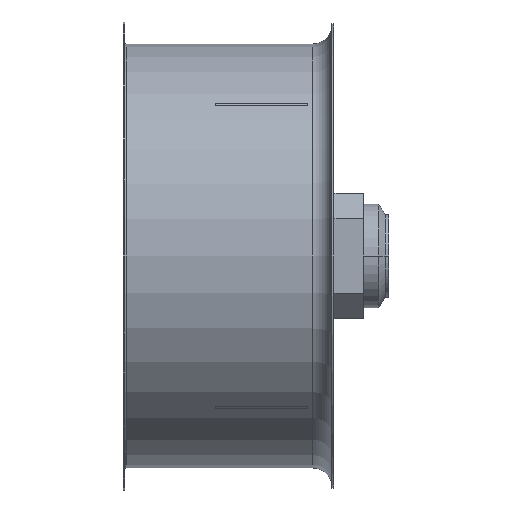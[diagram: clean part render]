
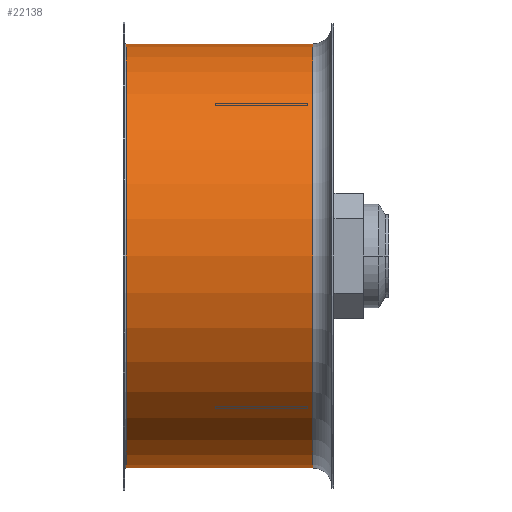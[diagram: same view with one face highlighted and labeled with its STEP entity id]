
A CAD part, front view. The second image highlights one B-rep face of the part: STEP entity #22138.
In plain terms, the highlighted cylindrical face has radius 403 mm (diameter 806 mm), a partial arc.
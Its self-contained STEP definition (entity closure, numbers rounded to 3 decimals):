
#965 = CARTESIAN_POINT ( 'NONE',  ( 35., 0., 0. ) ) ;
#2032 = VERTEX_POINT ( 'NONE', #2051 ) ;
#2051 = CARTESIAN_POINT ( 'NONE',  ( 35., 0., 403. ) ) ;
#4724 = DIRECTION ( 'NONE',  ( 0., 0., 1. ) ) ;
#4791 = FACE_OUTER_BOUND ( 'NONE', #44338, .T. ) ;
#4822 = CARTESIAN_POINT ( 'NONE',  ( -319., 0., 0. ) ) ;
#5215 = EDGE_CURVE ( 'NONE', #50691, #29561, #15147, .T. ) ;
#8845 = VECTOR ( 'NONE', #51051, 1000. ) ;
#9189 = EDGE_CURVE ( 'NONE', #17104, #50691, #34378, .T. ) ;
#12538 = ORIENTED_EDGE ( 'NONE', *, *, #39146, .T. ) ;
#13194 = CARTESIAN_POINT ( 'NONE',  ( -325., 0., 0. ) ) ;
#15147 = CIRCLE ( 'NONE', #50234, 403. ) ;
#16584 = DIRECTION ( 'NONE',  ( -1., 0., 0. ) ) ;
#16945 = ORIENTED_EDGE ( 'NONE', *, *, #34555, .T. ) ;
#17104 = VERTEX_POINT ( 'NONE', #49273 ) ;
#21750 = LINE ( 'NONE', #32464, #22948 ) ;
#22138 = ADVANCED_FACE ( 'NONE', ( #4791 ), #22815, .T. ) ;
#22815 = CYLINDRICAL_SURFACE ( 'NONE', #44943, 403. ) ;
#22948 = VECTOR ( 'NONE', #16584, 1000. ) ;
#24973 = DIRECTION ( 'NONE',  ( -1., 0., 0. ) ) ;
#25509 = ORIENTED_EDGE ( 'NONE', *, *, #5215, .F. ) ;
#26526 = CIRCLE ( 'NONE', #30152, 403. ) ;
#28825 = DIRECTION ( 'NONE',  ( 0., 0., 1. ) ) ;
#29561 = VERTEX_POINT ( 'NONE', #32529 ) ;
#30152 = AXIS2_PLACEMENT_3D ( 'NONE', #965, #40713, #28825 ) ;
#32464 = CARTESIAN_POINT ( 'NONE',  ( -325., 0., 403. ) ) ;
#32529 = CARTESIAN_POINT ( 'NONE',  ( -319., 0., 403. ) ) ;
#34378 = LINE ( 'NONE', #39049, #8845 ) ;
#34555 = EDGE_CURVE ( 'NONE', #2032, #29561, #21750, .T. ) ;
#35122 = ORIENTED_EDGE ( 'NONE', *, *, #9189, .F. ) ;
#39049 = CARTESIAN_POINT ( 'NONE',  ( -325., 0., -403. ) ) ;
#39146 = EDGE_CURVE ( 'NONE', #17104, #2032, #26526, .T. ) ;
#40713 = DIRECTION ( 'NONE',  ( -1., 0., 0. ) ) ;
#44338 = EDGE_LOOP ( 'NONE', ( #35122, #12538, #16945, #25509 ) ) ;
#44808 = CARTESIAN_POINT ( 'NONE',  ( -319., 0., -403. ) ) ;
#44943 = AXIS2_PLACEMENT_3D ( 'NONE', #13194, #45123, #4724 ) ;
#45123 = DIRECTION ( 'NONE',  ( -1., 0., 0. ) ) ;
#48549 = DIRECTION ( 'NONE',  ( 0., 0., 1. ) ) ;
#49273 = CARTESIAN_POINT ( 'NONE',  ( 35., 0., -403. ) ) ;
#50234 = AXIS2_PLACEMENT_3D ( 'NONE', #4822, #24973, #48549 ) ;
#50691 = VERTEX_POINT ( 'NONE', #44808 ) ;
#51051 = DIRECTION ( 'NONE',  ( -1., 0., 0. ) ) ;
